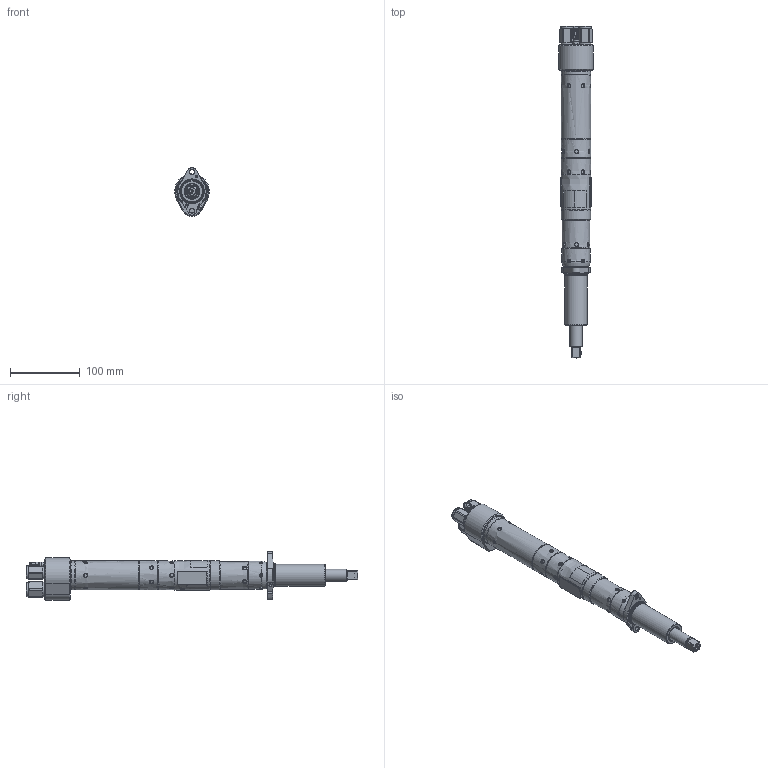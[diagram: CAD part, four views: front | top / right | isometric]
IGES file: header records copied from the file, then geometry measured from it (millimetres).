
Global section: file name: D:\share\siji\QA6 & QA8 MODEL\QA8 REMOTE SHUTOFF\45498508\45498508.igs; native system: Unigraphics Version X V2.0; preprocessor: Unigraphics NX IGES V2.0; date: 20070519.134847; units: inch
Bounding box: 49.95 x 477.68 x 70.07 mm (x, y, z)
Surface area: 89118.3 mm2 (no closed solid volume)
Topology: 0 solids, 0 shells, 640 faces, 10689 edges, 10577 vertices
Faces by surface type: revolution 407, extrusion 229, bspline 4
